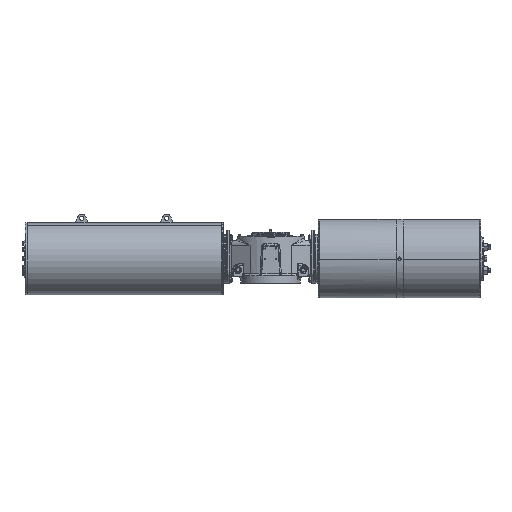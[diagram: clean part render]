
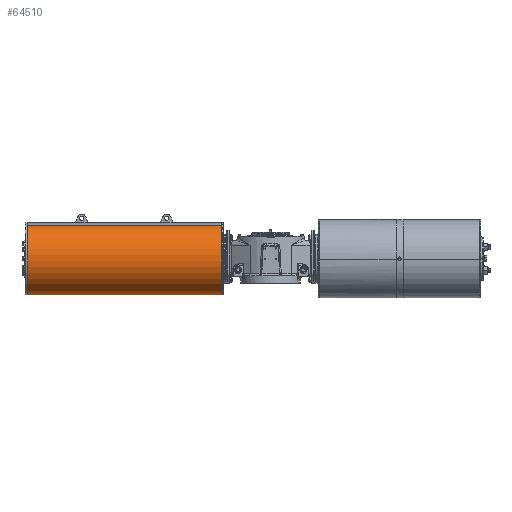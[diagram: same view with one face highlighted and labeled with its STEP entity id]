
A CAD part, front view. The second image highlights one B-rep face of the part: STEP entity #64510.
In plain terms, the highlighted cylindrical face has radius 340 mm (diameter 680 mm), a partial arc.
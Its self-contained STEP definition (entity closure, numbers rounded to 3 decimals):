
#17551 = CARTESIAN_POINT ( 'NONE',  ( -2293.385, 339.661, -143.326 ) ) ;
#19020 = EDGE_LOOP ( 'NONE', ( #102487, #34382, #76568, #40958 ) ) ;
#22676 = FACE_OUTER_BOUND ( 'NONE', #19020, .T. ) ;
#29763 = VERTEX_POINT ( 'NONE', #17551 ) ;
#32230 = CARTESIAN_POINT ( 'NONE',  ( -2293.385, 203., 168. ) ) ;
#32338 = CARTESIAN_POINT ( 'NONE',  ( -2293.385, 66.339, 479.326 ) ) ;
#33226 = VERTEX_POINT ( 'NONE', #134465 ) ;
#34046 = DIRECTION ( 'NONE',  ( 0., 0.402, -0.916 ) ) ;
#34382 = ORIENTED_EDGE ( 'NONE', *, *, #116018, .T. ) ;
#35440 = DIRECTION ( 'NONE',  ( 1., 0., 0. ) ) ;
#35707 = VECTOR ( 'NONE', #97839, 1000. ) ;
#40131 = VECTOR ( 'NONE', #71833, 1000. ) ;
#40958 = ORIENTED_EDGE ( 'NONE', *, *, #102876, .T. ) ;
#46931 = CIRCLE ( 'NONE', #112966, 340. ) ;
#51688 = VERTEX_POINT ( 'NONE', #109405 ) ;
#64510 = ADVANCED_FACE ( 'NONE', ( #22676 ), #122366, .T. ) ;
#67142 = DIRECTION ( 'NONE',  ( 0., -0.402, 0.916 ) ) ;
#71833 = DIRECTION ( 'NONE',  ( 1., 0., 0. ) ) ;
#75682 = DIRECTION ( 'NONE',  ( 1., 0., 0. ) ) ;
#76568 = ORIENTED_EDGE ( 'NONE', *, *, #116074, .T. ) ;
#77809 = CARTESIAN_POINT ( 'NONE',  ( -462.615, 203., 168. ) ) ;
#84020 = AXIS2_PLACEMENT_3D ( 'NONE', #88936, #35440, #34046 ) ;
#87846 = CARTESIAN_POINT ( 'NONE',  ( -2298., 66.339, 479.326 ) ) ;
#88515 = DIRECTION ( 'NONE',  ( 0., -0.402, 0.916 ) ) ;
#88936 = CARTESIAN_POINT ( 'NONE',  ( -2298., 203., 168. ) ) ;
#97839 = DIRECTION ( 'NONE',  ( 1., 0., 0. ) ) ;
#102487 = ORIENTED_EDGE ( 'NONE', *, *, #125983, .F. ) ;
#102876 = EDGE_CURVE ( 'NONE', #51688, #33226, #131279, .T. ) ;
#104636 = LINE ( 'NONE', #114619, #40131 ) ;
#106604 = AXIS2_PLACEMENT_3D ( 'NONE', #77809, #121307, #67142 ) ;
#109405 = CARTESIAN_POINT ( 'NONE',  ( -462.615, 339.661, -143.326 ) ) ;
#109931 = LINE ( 'NONE', #87846, #35707 ) ;
#112966 = AXIS2_PLACEMENT_3D ( 'NONE', #32230, #75682, #88515 ) ;
#114619 = CARTESIAN_POINT ( 'NONE',  ( -2298., 339.661, -143.326 ) ) ;
#114725 = VERTEX_POINT ( 'NONE', #32338 ) ;
#116018 = EDGE_CURVE ( 'NONE', #114725, #29763, #46931, .T. ) ;
#116074 = EDGE_CURVE ( 'NONE', #29763, #51688, #104636, .T. ) ;
#121307 = DIRECTION ( 'NONE',  ( -1., 0., 0. ) ) ;
#122366 = CYLINDRICAL_SURFACE ( 'NONE', #84020, 340. ) ;
#125983 = EDGE_CURVE ( 'NONE', #114725, #33226, #109931, .T. ) ;
#131279 = CIRCLE ( 'NONE', #106604, 340. ) ;
#134465 = CARTESIAN_POINT ( 'NONE',  ( -462.615, 66.339, 479.326 ) ) ;
